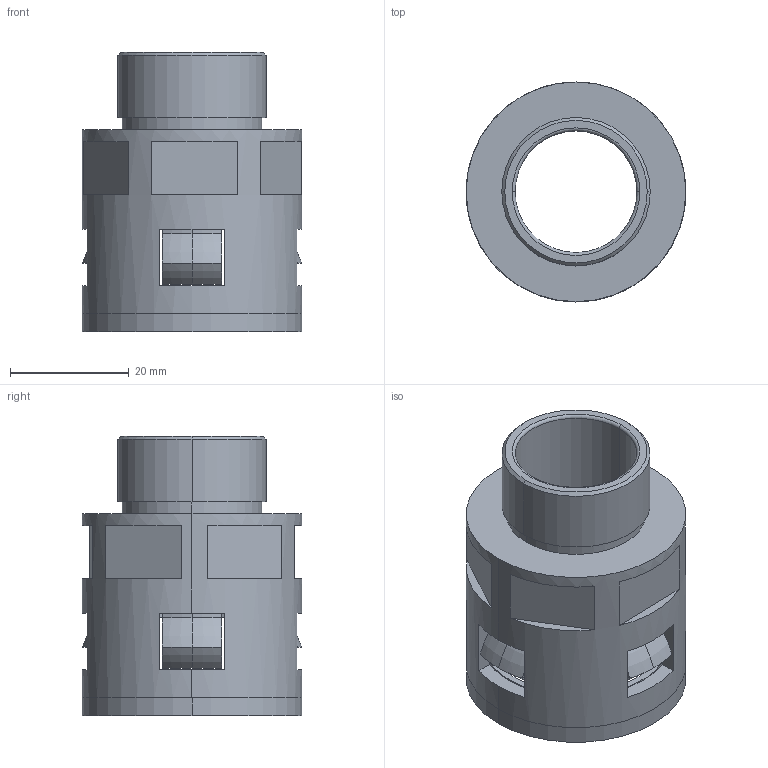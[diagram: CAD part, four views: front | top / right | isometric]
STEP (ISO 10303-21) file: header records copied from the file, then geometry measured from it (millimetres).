
FILE_DESCRIPTION (( 'STEP AP203' ), '1' );
FILE_NAME ('WQG-M25-AD28.5.STEP', '2013-02-18T07:34:05', ( 'User' ), ( 'Microsoft' ), 'SwSTEP 2.0', 'SolidWorks 2010', '' );
FILE_SCHEMA (( 'CONFIG_CONTROL_DESIGN' ));
Length unit declared in the file: millimetre
Products named in the file (4): WQG-M25-AD28.5-01; GFD-AD28.5; NSK-AD28.5; WQG-M25-AD28.5
Assembly tree (3 placements, depth 2):
  WQG-M25-AD28.5
    GFD-AD28.5
    NSK-AD28.5
    WQG-M25-AD28.5-01
Bounding box: 37 x 37 x 47 mm (x, y, z)
Volume: 14691.1 mm3; surface area: 17515 mm2
Topology: 3 solids, 3 shells, 177 faces, 458 edges, 290 vertices
Faces by surface type: plane 87, cone 34, torus 28, cylinder 28
Entity records: 6020 total; most frequent: CARTESIAN_POINT 1075, DIRECTION 1034, ORIENTED_EDGE 916, EDGE_CURVE 458, AXIS2_PLACEMENT_3D 409, VERTEX_POINT 290, CIRCLE 226, VECTOR 216
